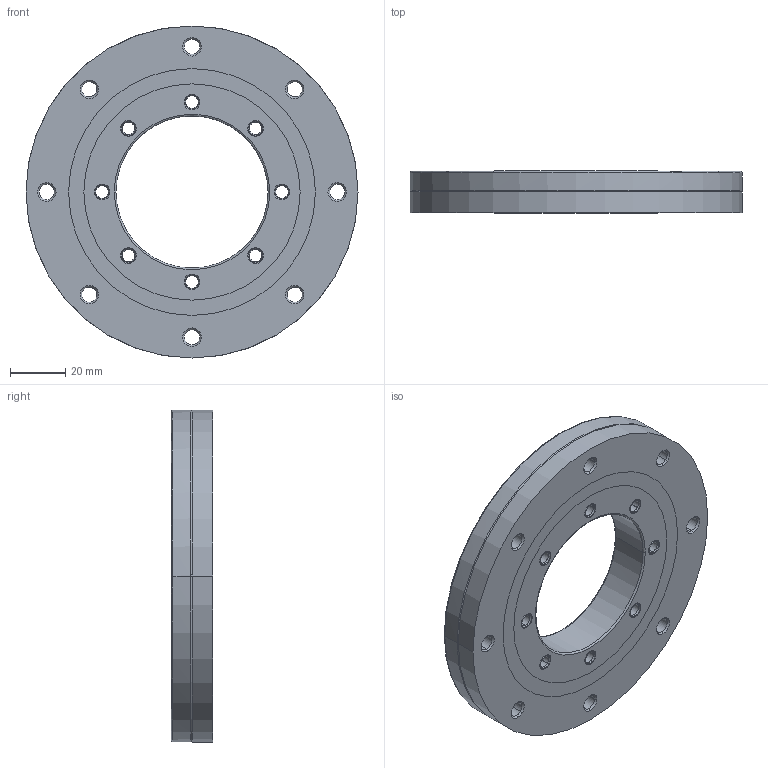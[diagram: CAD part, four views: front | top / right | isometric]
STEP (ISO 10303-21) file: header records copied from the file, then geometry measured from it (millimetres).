
FILE_DESCRIPTION(('no description'),'unknown implementation level');
FILE_NAME('CRBD05515A_41.stp',' ',('HIWIN GmbH'),('CADClick - KiM GmbH - www.kimweb.de'),'unknown preprocess','ACIS','unknown authorization');
FILE_SCHEMA(('automotive_design'));
Length unit declared in the file: millimetre
Products named in the file (21): CRBD05515A_1; CRBD05515A_2; CRBD05515A_3; CRBD05515A_4; CRBD05515A_5; CRBD05515A_6; CRBD05515A_7; CRBD05515A_8; CRBD05515A_9; CRBD05515A_10; CRBD05515A_11; CRBD05515A_12; CRBD05515A_13; CRBD05515A_14; CRBD05515A_15; CRBD05515A_16; CRBD05515A_17; CRBD05515A_18; CRBD05515A_19; CRBD05515A_20; CRBD05515A
Bounding box: 120 x 15 x 120 mm (x, y, z)
Volume: 109267.6 mm3; surface area: 52428.5 mm2
Topology: 5 solids, 21 shells, 302 faces, 764 edges, 496 vertices
Faces by surface type: cone 168, cylinder 100, plane 18, torus 16
Entity records: 17953 total; most frequent: DIRECTION 1890, CARTESIAN_POINT 1583, ORIENTED_EDGE 1464, STYLED_ITEM 1455, PRESENTATION_STYLE_ASSIGNMENT 1455, COLOUR_RGB 1455, AXIS2_PLACEMENT_3D 803, EDGE_CURVE 764
